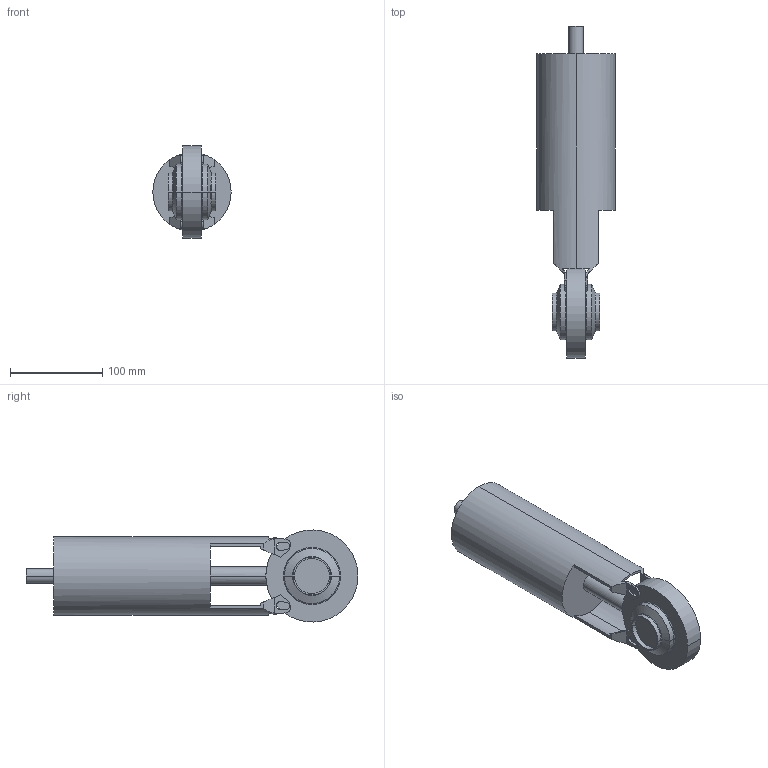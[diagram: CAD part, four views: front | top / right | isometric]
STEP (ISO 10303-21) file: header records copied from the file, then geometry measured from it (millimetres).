
FILE_DESCRIPTION(('OneSpaceDesigner STEP Export'),'2;1');
FILE_NAME('SV1-40-FZ-12S-vereint.stp','2007-04-19T14:32:12',(''),(''),'OneSpace Designer STEP processor for AP214 (Solid Model)','OneSpace Modeling 15.00 06-Feb-2007 (C) CoCreate Software GmbH','');
FILE_SCHEMA(('AUTOMOTIVE_DESIGN { 1 0 10303 214 1 1 1 1 }'));
Length unit declared in the file: millimetre
Products named in the file (3): SV1-40-FZ-12S; Luftanschluß; SV1-40-FZ-12S-vereint
Assembly tree (2 placements, depth 2):
  SV1-40-FZ-12S-vereint
    Luftanschluß
    SV1-40-FZ-12S
Bounding box: 85 x 360.43 x 99.92 mm (x, y, z)
Volume: 1224249.6 mm3; surface area: 105667.5 mm2
Topology: 2 solids, 2 shells, 126 faces, 349 edges, 220 vertices
Faces by surface type: plane 74, cylinder 40, torus 8, cone 4
Entity records: 4218 total; most frequent: CARTESIAN_POINT 1156, ORIENTED_EDGE 698, DIRECTION 565, EDGE_CURVE 349, VERTEX_POINT 220, VECTOR 193, LINE 193, AXIS2_PLACEMENT_3D 186
